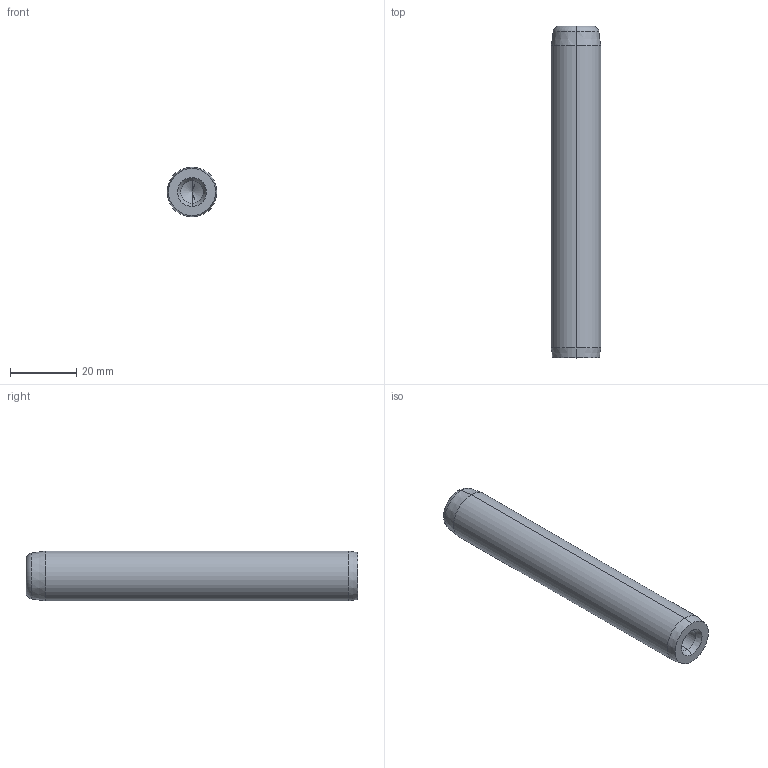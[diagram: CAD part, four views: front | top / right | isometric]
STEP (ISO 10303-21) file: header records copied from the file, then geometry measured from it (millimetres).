
FILE_DESCRIPTION (( 'STEP AP214' ), '1' );
FILE_NAME ('D14_15100.STEP', '2011-12-24T22:56:36', ( 'Dell' ), ( '' ), 'SwSTEP 2.0', 'SolidWorks 2010', '' );
FILE_SCHEMA (( 'AUTOMOTIVE_DESIGN' ));
Length unit declared in the file: metre
Products named in the file (1): D14_15100
Bounding box: 15 x 100 x 15 mm (x, y, z)
Volume: 15537.5 mm3; surface area: 6065.5 mm2
Topology: 1 solids, 1 shells, 22 faces, 46 edges, 24 vertices
Faces by surface type: cone 12, cylinder 6, torus 2, plane 2
Entity records: 588 total; most frequent: DIRECTION 112, CARTESIAN_POINT 89, ORIENTED_EDGE 84, AXIS2_PLACEMENT_3D 47, EDGE_CURVE 42, CIRCLE 24, EDGE_LOOP 24, VERTEX_POINT 24
